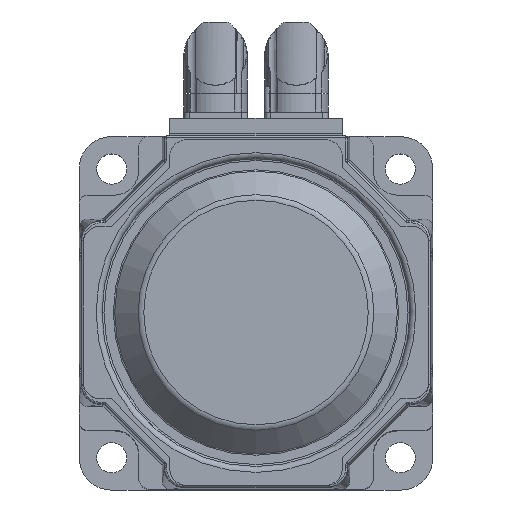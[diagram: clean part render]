
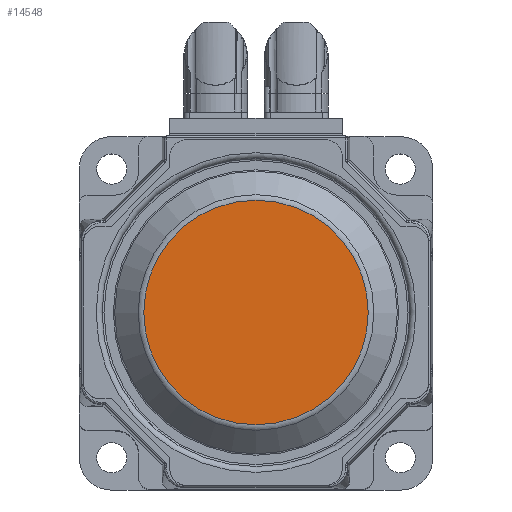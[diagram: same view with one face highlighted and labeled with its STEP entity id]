
A CAD part, top view. The second image highlights one B-rep face of the part: STEP entity #14548.
In plain terms, the highlighted planar face has unit normal (0, 0, 1).
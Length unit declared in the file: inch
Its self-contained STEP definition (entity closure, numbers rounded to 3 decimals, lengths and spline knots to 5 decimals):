
#14528=CARTESIAN_POINT('',(0.0,1.78622,1.69));
#14529=VERTEX_POINT('',#14528);
#14530=CARTESIAN_POINT('',(0.0,0.0,1.69));
#14531=DIRECTION('',(0.0,0.0,-1.0));
#14532=DIRECTION('',(0.0,1.0,0.0));
#14533=AXIS2_PLACEMENT_3D('',#14530,#14531,#14532);
#14534=CIRCLE('',#14533,1.78622);
#14535=EDGE_CURVE('',#14529,#14529,#14534,.T.);
#14540=CARTESIAN_POINT('',(0.0,0.89311,1.69));
#14541=DIRECTION('',(0.0,0.0,1.0));
#14542=DIRECTION('',(1.0,0.0,0.0));
#14543=AXIS2_PLACEMENT_3D('',#14540,#14541,#14542);
#14544=PLANE('',#14543);
#14545=ORIENTED_EDGE('',*,*,#14535,.F.);
#14546=EDGE_LOOP('',(#14545));
#14547=FACE_OUTER_BOUND('',#14546,.T.);
#14548=ADVANCED_FACE('',(#14547),#14544,.T.);
